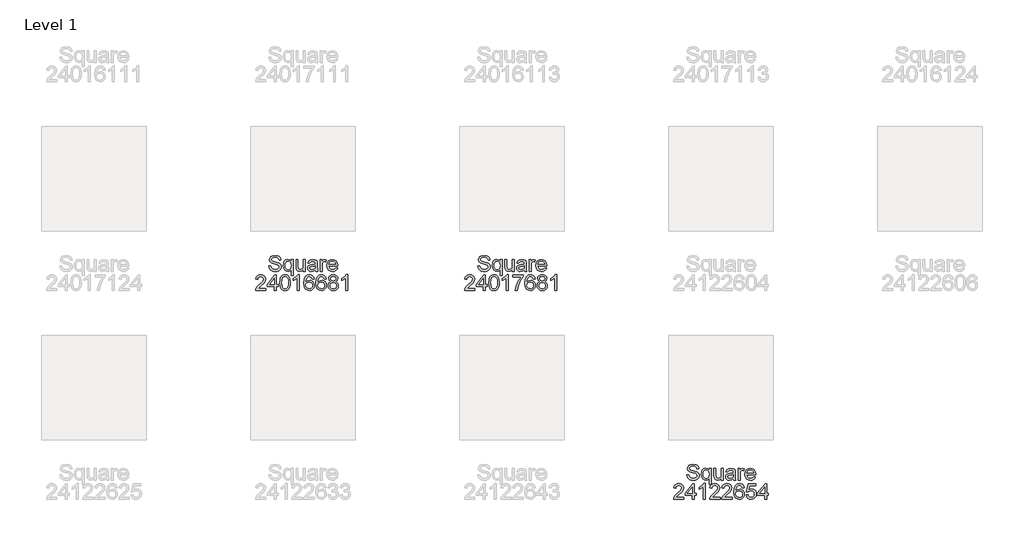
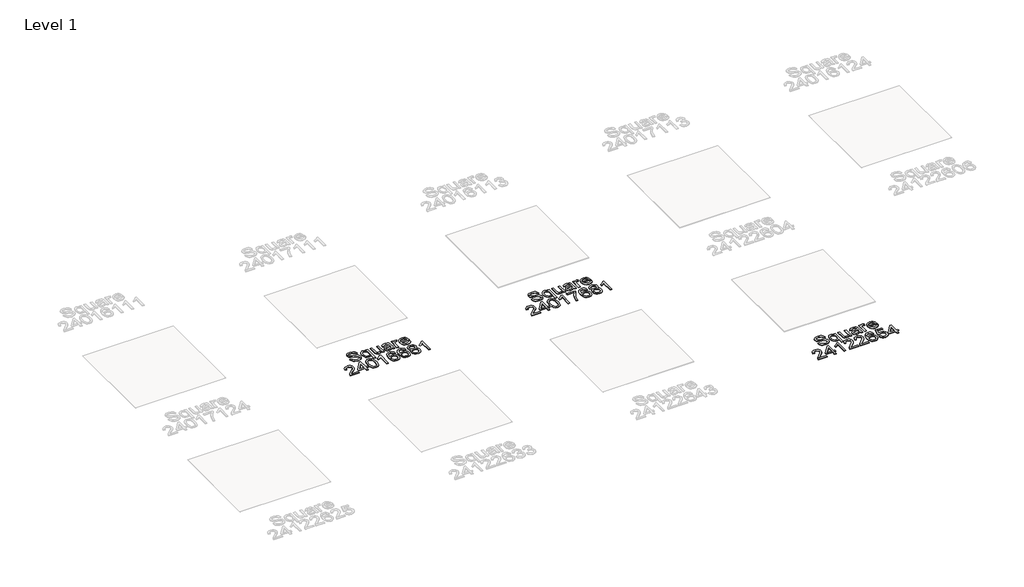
# One storey, part 3 of 6: 3 proxies.
"""IFC4 building model written with IfcOpenShell, lengths in millimetres."""

from ifc_helpers import new_model, si_unit, origin, origin_with_axes, place, context, project, spatial, polyline, outline, extrude, element, save

model = new_model("IFC4")

# Units and contexts
model_context = context("Model", 3, world=origin())
ifc_project = project(units=[si_unit("LENGTHUNIT", "METRE", prefix="MILLI")], contexts=[model_context])

# Site, building, storey
site = spatial("IfcSite", under=ifc_project)
building = spatial("IfcBuilding", under=site)
storey = spatial("IfcBuildingStorey", under=building, Name="Level 1", Elevation=0.0)

# Proxies
placement = place(None, origin())
element("IfcBuildingElementProxy", 1, Name="150mm Arial", ObjectType="150mm Arial", at=placement, inside=storey, context=model_context, shape_type="SweptSolid", body=[
    extrude(outline(polyline([(-2760.0314438, -1311.1477573), (-2741.1958857, -1311.1477573), (-2735.1258328, -1330.0017096), (-2720.3001884, -1341.9210862), (-2697.7122339, -1346.4644288), (-2678.0305471, -1343.0247322), (-2665.3202242, -1333.5701649), (-2661.1447635, -1320.9334184), (-2664.2717605, -1309.1795886), (-2677.0740539, -1300.6263322), (-2704.4996567, -1293.4342392), (-2734.0221868, -1284.1452189), (-2750.0434477, -1270.1289148), (-2755.3225543, -1251.4037213), (-2753.6900779, -1240.37186), (-2748.7926489, -1230.0849597), (-2740.7590258, -1221.3661564), (-2729.7179674, -1215.0385861), (-2701.795724, -1209.9066322), (-2671.9972824, -1215.2777094), (-2660.5745464, -1221.9087823), (-2652.1316547, -1231.059847), (-2646.7881687, -1242.1606862), (-2644.6636501, -1254.6410828), (-2663.4992083, -1254.6410828), (-2666.9572991, -1243.4022879), (-2674.1677862, -1235.2904899), (-2685.4341723, -1230.3792653), (-2701.05996, -1228.7421904), (-2717.0536297, -1230.3608712), (-2728.0257103, -1235.2169135), (-2734.3716747, -1242.3630213), (-2736.4869961, -1250.8518983), (-2734.987877, -1258.0899766), (-2730.4905196, -1263.9117091), (-2699.7355848, -1274.4331342), (-2666.4054761, -1283.8877015), (-2655.6679203, -1290.7211095), (-2648.1769232, -1299.1548043), (-2643.7761348, -1309.0968152), (-2642.3092054, -1320.4551718), (-2643.996864, -1332.0664473), (-2649.05984, -1342.987944), (-2657.2911996, -1352.387329), (-2668.4840093, -1359.4322692), (-2681.9438918, -1363.8330575), (-2696.9764699, -1365.299987), (-2715.4303504, -1363.7180944), (-2730.6192783, -1358.9724167), (-2742.7179974, -1351.0445597), (-2751.9012517, -1339.9161293), (-2757.7965607, -1326.3596778), (-2760.0314438, -1311.1477573)])), origin_with_axes(), (0.0, 0.0, 1.0), 5.0),
    extrude(outline(polyline([(-2548.1314146, -1405.3255481), (-2548.1314146, -1347.8623804), (-2560.0875795, -1360.3335801), (-2576.42154, -1365.299987), (-2594.3281962, -1361.3774452), (-2609.5677078, -1349.6098199), (-2619.9971624, -1331.0087865), (-2623.4736472, -1306.5860206), (-2617.9554173, -1276.7507908), (-2611.1955856, -1265.1441138), (-2601.9525505, -1256.7380102), (-2590.9620759, -1251.6336475), (-2578.9599258, -1249.9321933), (-2561.4487428, -1255.2112999), (-2548.1314146, -1271.0486198), (-2548.1314146, -1252.2866381), (-2529.2958565, -1252.2866381), (-2529.2958565, -1405.3255481), (-2548.1314146, -1405.3255481)]), holes=[polyline([(-2604.6380891, -1307.6160902), (-2602.5181691, -1324.6122383), (-2596.1584091, -1336.7523442), (-2586.837199, -1344.0364077), (-2575.8329289, -1346.4644288), (-2565.2885112, -1344.1559693), (-2556.316789, -1337.2305908), (-2550.1777582, -1325.5871256), (-2548.1314146, -1309.1244063), (-2550.2881228, -1291.5258514), (-2556.7582474, -1278.9029004), (-2566.1346398, -1271.3015387), (-2577.0101512, -1268.7677515), (-2587.6833276, -1271.1267948), (-2596.5998675, -1278.2039246), (-2602.6285337, -1290.2750526), (-2604.6380891, -1307.6160902)])]), origin_with_axes(), (0.0, 0.0, 1.0), 5.0),
    extrude(outline(polyline([(-2430.4091762, -1362.9455422), (-2430.4091762, -1343.9260431), (-2445.1612442, -1359.956501), (-2464.4014725, -1365.299987), (-2482.1149906, -1361.5475906), (-2494.3286728, -1352.1298116), (-2499.9388732, -1338.2606604), (-2501.0425192, -1320.7494774), (-2501.0425192, -1252.2866381), (-2482.2069611, -1252.2866381), (-2482.2069611, -1311.8835213), (-2481.0665269, -1331.0869614), (-2473.6169165, -1342.3625446), (-2459.5822184, -1346.4644288), (-2443.8552631, -1342.2705741), (-2433.4625967, -1330.8478382), (-2430.4091762, -1309.8601703), (-2430.4091762, -1252.2866381), (-2411.573618, -1252.2866381), (-2411.573618, -1362.9455422), (-2430.4091762, -1362.9455422)])), origin_with_axes(), (0.0, 0.0, 1.0), 5.0),
    extrude(outline(polyline([(-2315.0413825, -1348.8188736), (-2333.3067235, -1361.5843788), (-2353.485051, -1365.299987), (-2369.2258018, -1363.0651039), (-2380.8370773, -1356.3604545), (-2387.9969806, -1346.1793203), (-2390.3836151, -1333.5149826), (-2386.7783715, -1318.6157618), (-2377.3054102, -1307.8000312), (-2364.1168406, -1301.6196136), (-2347.8196682, -1298.7869223), (-2315.1517471, -1292.3121992), (-2315.0413825, -1288.1183444), (-2316.3381665, -1279.7122408), (-2320.2285186, -1274.212405), (-2328.9289278, -1270.1289148), (-2341.0506395, -1268.7677515), (-2360.1069269, -1272.3913891), (-2369.1936122, -1285.2488648), (-2388.0291703, -1282.8944201), (-2379.8805841, -1264.5003203), (-2363.4730471, -1253.7213779), (-2338.6226184, -1249.9321933), (-2315.7955406, -1253.2799195), (-2302.9012766, -1261.6860231), (-2297.1255293, -1274.4699224), (-2296.2058243, -1290.9510358), (-2296.2058243, -1314.3851189), (-2295.2493311, -1347.1082223), (-2291.4969348, -1362.9455422), (-2310.3324929, -1362.9455422), (-2315.0413825, -1348.8188736)]), holes=[polyline([(-2315.0413825, -1311.1477573), (-2345.4284353, -1316.9235046), (-2361.6336372, -1319.9769252), (-2368.972883, -1324.9433321), (-2371.5480569, -1332.1906074), (-2365.9378565, -1342.3809387), (-2349.4751372, -1346.4644288), (-2330.4188499, -1341.9578744), (-2318.1315912, -1331.0501732), (-2315.1517471, -1316.4820462), (-2315.0413825, -1311.1477573)])]), origin_with_axes(), (0.0, 0.0, 1.0), 5.0),
    extrude(outline(polyline([(-2270.3069319, -1362.9455422), (-2270.3069319, -1252.2866381), (-2253.8258185, -1252.2866381), (-2253.8258185, -1268.6573869), (-2242.127171, -1253.5742251), (-2230.3549472, -1249.9321933), (-2211.4458126, -1255.7447288), (-2217.7365947, -1272.6305124), (-2230.9803466, -1268.7677515), (-2241.6305303, -1272.4833596), (-2248.4179531, -1282.7840555), (-2251.4713737, -1304.7833988), (-2251.4713737, -1362.9455422), (-2270.3069319, -1362.9455422)])), origin_with_axes(), (0.0, 0.0, 1.0), 5.0),
    extrude(outline(polyline([(-2122.1976406, -1329.9833155), (-2103.7299644, -1332.3377602), (-2110.38403, -1346.2528967), (-2121.0020241, -1356.6547601), (-2135.3448234, -1363.1386803), (-2153.1733046, -1365.299987), (-2175.2738155, -1361.5705833), (-2192.2791607, -1350.3823721), (-2203.1224825, -1332.4619204), (-2206.7369231, -1308.5357951), (-2203.0856943, -1283.804928), (-2192.1320079, -1265.3096607), (-2175.3565889, -1253.7765602), (-2154.2401624, -1249.9321933), (-2133.7813249, -1253.7673631), (-2117.4335688, -1265.2728725), (-2106.7144071, -1283.7313516), (-2103.1413532, -1308.4254305), (-2103.2517178, -1313.5022021), (-2187.9013649, -1313.5022021), (-2184.6410108, -1327.6012795), (-2177.0672402, -1337.9663548), (-2166.1365464, -1344.3399103), (-2152.8054226, -1346.4644288), (-2134.3377464, -1342.5280915), (-2122.1976406, -1329.9833155)]), holes=[polyline([(-2187.9013649, -1294.6666439), (-2121.9769114, -1294.6666439), (-2124.5244942, -1284.715436), (-2129.5184923, -1277.5969193), (-2140.4997699, -1270.9750434), (-2154.3137388, -1268.7677515), (-2167.0102661, -1270.5289865), (-2177.5086986, -1275.8126917), (-2184.8065577, -1284.0486498), (-2187.9013649, -1294.6666439)])]), origin_with_axes(), (0.0, 0.0, 1.0), 5.0),
    extrude(outline(polyline([(-2789.4620034, -1527.0722108), (-2789.4620034, -1545.907769), (-2888.3486838, -1545.907769), (-2886.3253328, -1532.9215346), (-2874.8842027, -1512.9271481), (-2851.3029668, -1491.0933517), (-2818.7821985, -1459.7130175), (-2812.6845544, -1448.8972869), (-2810.6520064, -1438.3758618), (-2812.5695913, -1428.9442872), (-2818.322346, -1421.1038021), (-2827.1653094, -1415.820097), (-2838.3535206, -1414.0588619), (-2850.1027518, -1415.7787103), (-2859.2308238, -1420.9382552), (-2865.1215343, -1429.1328267), (-2867.1586808, -1439.9577544), (-2885.994239, -1437.6033096), (-2881.4279037, -1419.3839538), (-2871.5548707, -1406.0758226), (-2856.8901746, -1397.9364335), (-2837.9488504, -1395.2233038), (-2818.8695704, -1398.2399361), (-2804.2324656, -1407.2898332), (-2794.9204526, -1420.8094965), (-2791.8164482, -1437.2354276), (-2795.1641744, -1455.0960985), (-2806.2926047, -1473.5637746), (-2833.2767491, -1499.3706966), (-2854.9449986, -1517.4888849), (-2863.4430727, -1527.0722108), (-2789.4620034, -1527.0722108)])), origin_with_axes(), (0.0, 0.0, 1.0), 5.0),
    extrude(outline(polyline([(-2709.4108813, -1545.907769), (-2709.4108813, -1510.5910975), (-2777.6897796, -1510.5910975), (-2777.6897796, -1491.7555393), (-2704.7019918, -1397.5777485), (-2690.5753231, -1397.5777485), (-2690.5753231, -1491.7555393), (-2671.739765, -1491.7555393), (-2671.739765, -1510.5910975), (-2690.5753231, -1510.5910975), (-2690.5753231, -1545.907769), (-2709.4108813, -1545.907769)]), holes=[polyline([(-2709.4108813, -1491.7555393), (-2709.4108813, -1433.5566077), (-2754.5132139, -1491.7555393), (-2709.4108813, -1491.7555393)])]), origin_with_axes(), (0.0, 0.0, 1.0), 5.0),
    extrude(outline(polyline([(-2655.2586516, -1471.779547), (-2653.8744956, -1447.6602837), (-2649.7220276, -1428.4246538), (-2642.8426343, -1413.7783519), (-2633.2777024, -1403.4270723), (-2620.9582541, -1397.2742459), (-2605.8153115, -1395.2233038), (-2583.8159681, -1400.0793461), (-2568.6224417, -1414.077256), (-2559.7932739, -1436.3709049), (-2556.3719713, -1471.779547), (-2557.7423317, -1495.7608545), (-2561.853413, -1514.9504991), (-2568.6914196, -1529.6105966), (-2578.2425559, -1540.003263), (-2590.5895954, -1546.1974761), (-2605.8153115, -1548.2622138), (-2625.3866336, -1544.6753643), (-2640.2490662, -1533.914816), (-2651.5062553, -1508.4297907), (-2655.2586516, -1471.779547)]), holes=[polyline([(-2636.4230935, -1471.7427588), (-2634.2158015, -1501.371055), (-2627.5939256, -1518.5189545), (-2617.7346881, -1526.6997303), (-2605.8153115, -1529.4266556), (-2593.8959348, -1526.6905333), (-2584.0366973, -1518.4821663), (-2577.4148214, -1501.3250697), (-2575.2075295, -1471.7427588), (-2577.341245, -1442.7812487), (-2583.7423917, -1425.499992), (-2593.5832351, -1416.9191444), (-2606.0360407, -1414.0588619), (-2617.8266586, -1416.5788536), (-2627.29962, -1424.1388286), (-2634.1422251, -1442.4961402), (-2636.4230935, -1471.7427588)])]), origin_with_axes(), (0.0, 0.0, 1.0), 5.0),
    extrude(outline(polyline([(-2469.2575148, -1545.907769), (-2488.093073, -1545.907769), (-2488.093073, -1428.4798361), (-2505.9353498, -1441.1901591), (-2525.7641893, -1450.6999086), (-2525.7641893, -1432.8944201), (-2498.1546456, -1415.2728725), (-2481.3976207, -1395.2233038), (-2469.2575148, -1395.2233038), (-2469.2575148, -1545.907769)])), origin_with_axes(), (0.0, 0.0, 1.0), 5.0),
    extrude(outline(polyline([(-2327.9908287, -1435.2488648), (-2346.8263869, -1437.6033096), (-2353.9632976, -1421.8947484), (-2362.5073569, -1416.0178336), (-2372.8356439, -1414.0588619), (-2389.8317921, -1418.6205987), (-2402.6892678, -1435.7455055), (-2406.5934155, -1449.7756051), (-2408.0419509, -1469.3147376), (-2391.4320788, -1454.2867581), (-2370.8490811, -1449.3755335), (-2353.4482628, -1452.7324567), (-2338.8433476, -1462.8032263), (-2328.9381248, -1478.1898907), (-2325.6363839, -1497.4944984), (-2327.1906854, -1510.9819721), (-2331.8535896, -1523.4853614), (-2339.2388207, -1534.0895599), (-2348.9601024, -1541.8794612), (-2360.5759764, -1546.6665256), (-2373.6449843, -1548.2622138), (-2395.0143297, -1544.0315708), (-2412.0334705, -1531.339642), (-2423.1664994, -1508.9356285), (-2426.877509, -1475.5687315), (-2422.7572307, -1438.0539651), (-2410.3963956, -1412.4033929), (-2393.5198091, -1399.5183261), (-2371.6584215, -1395.2233038), (-2355.1313229, -1397.8812512), (-2341.8967681, -1405.8550934), (-2332.6261418, -1418.5194311), (-2327.9908287, -1435.2488648)]), holes=[polyline([(-2408.0419509, -1497.2001928), (-2403.6825492, -1513.5157593), (-2392.0942664, -1525.3615596), (-2375.1165123, -1529.4266556), (-2362.6866994, -1527.3205312), (-2352.9148339, -1521.0021579), (-2346.582665, -1511.0693441), (-2344.4719421, -1498.1198978), (-2346.5550739, -1485.6900849), (-2352.8044693, -1476.212525), (-2362.7418817, -1470.21145), (-2375.8890645, -1468.2110916), (-2388.3004833, -1470.21145), (-2398.6793541, -1476.212525), (-2405.7013017, -1485.4601587), (-2408.0419509, -1497.2001928)])]), origin_with_axes(), (0.0, 0.0, 1.0), 5.0),
    extrude(outline(polyline([(-2212.623035, -1435.2488648), (-2231.4585932, -1437.6033096), (-2238.5955039, -1421.8947484), (-2247.1395632, -1416.0178336), (-2257.4678502, -1414.0588619), (-2274.4639984, -1418.6205987), (-2287.3214741, -1435.7455055), (-2291.2256218, -1449.7756051), (-2292.6741572, -1469.3147376), (-2276.0642851, -1454.2867581), (-2255.4812875, -1449.3755335), (-2238.0804691, -1452.7324567), (-2223.4755539, -1462.8032263), (-2213.5703312, -1478.1898907), (-2210.2685902, -1497.4944984), (-2211.8228917, -1510.9819721), (-2216.485796, -1523.4853614), (-2223.871027, -1534.0895599), (-2233.5923087, -1541.8794612), (-2245.2081827, -1546.6665256), (-2258.2771906, -1548.2622138), (-2279.646536, -1544.0315708), (-2296.6656768, -1531.339642), (-2307.7987057, -1508.9356285), (-2311.5097153, -1475.5687315), (-2307.389437, -1438.0539651), (-2295.0286019, -1412.4033929), (-2278.1520154, -1399.5183261), (-2256.2906278, -1395.2233038), (-2239.7635292, -1397.8812512), (-2226.5289744, -1405.8550934), (-2217.2583482, -1418.5194311), (-2212.623035, -1435.2488648)]), holes=[polyline([(-2292.6741572, -1497.2001928), (-2288.3147555, -1513.5157593), (-2276.7264727, -1525.3615596), (-2259.7487186, -1529.4266556), (-2247.3189057, -1527.3205312), (-2237.5470402, -1521.0021579), (-2231.2148713, -1511.0693441), (-2229.1041484, -1498.1198978), (-2231.1872802, -1485.6900849), (-2237.4366756, -1476.212525), (-2247.374088, -1470.21145), (-2260.5212708, -1468.2110916), (-2272.9326896, -1470.21145), (-2283.3115604, -1476.212525), (-2290.333508, -1485.4601587), (-2292.6741572, -1497.2001928)])]), origin_with_axes(), (0.0, 0.0, 1.0), 5.0),
    extrude(outline(polyline([(-2166.34348, -1462.9135909), (-2183.5051751, -1451.2149434), (-2189.0785873, -1433.0047847), (-2186.0435609, -1418.2803078), (-2176.9384815, -1406.1126108), (-2162.7842217, -1397.9456305), (-2144.6016541, -1395.2233038), (-2126.3087219, -1398.0100099), (-2111.9705211, -1406.3701282), (-2102.6998949, -1418.7309633), (-2099.6096861, -1433.5198195), (-2105.1095219, -1451.2701257), (-2121.7929704, -1462.9135909), (-2110.200089, -1468.8870748), (-2101.7617958, -1477.684053), (-2096.6160464, -1488.8814612), (-2094.9007966, -1502.0562352), (-2098.303705, -1520.0640588), (-2108.5124304, -1534.9448855), (-2124.2761739, -1544.9328817), (-2144.3441367, -1548.2622138), (-2164.4120995, -1544.9190861), (-2180.175843, -1534.8897032), (-2190.3845684, -1519.8663223), (-2193.7874769, -1501.5412004), (-2192.0032492, -1487.8559902), (-2186.6505662, -1476.5988011), (-2178.0053393, -1468.1559093), (-2166.34348, -1462.9135909)]), holes=[polyline([(-2170.2430292, -1433.5566077), (-2168.5737646, -1441.7787703), (-2163.565971, -1448.3454639), (-2155.366801, -1452.6496832), (-2144.1234075, -1454.084423), (-2133.14213, -1452.6588803), (-2125.0671202, -1448.3822521), (-2120.1007132, -1442.0362877), (-2118.4452442, -1434.4027363), (-2120.1558955, -1426.4794778), (-2125.2878494, -1419.9265797), (-2133.4732238, -1415.5257914), (-2144.3441367, -1414.0588619), (-2155.2840275, -1415.4936017), (-2163.4556064, -1419.7978211), (-2168.5461735, -1426.1069973), (-2170.2430292, -1433.5566077)]), polyline([(-2174.9519187, -1500.8790128), (-2171.8065276, -1515.0608637), (-2160.6780973, -1525.6742593), (-2144.1969839, -1529.4266556), (-2131.3762964, -1527.4538884), (-2121.7561822, -1521.5355868), (-2115.7413116, -1512.5730617), (-2113.7363547, -1501.467624), (-2115.8056909, -1490.1736467), (-2122.0136996, -1481.013385), (-2131.854543, -1474.9433321), (-2144.8223833, -1472.9199812), (-2157.4637284, -1474.915741), (-2166.9872735, -1480.9030204), (-2172.9607574, -1489.8885382), (-2174.9519187, -1500.8790128)])]), origin_with_axes(), (0.0, 0.0, 1.0), 5.0),
    extrude(outline(polyline([(-2007.7863401, -1545.907769), (-2026.6218983, -1545.907769), (-2026.6218983, -1428.4798361), (-2044.464175, -1441.1901591), (-2064.2930146, -1450.6999086), (-2064.2930146, -1432.8944201), (-2036.6834708, -1415.2728725), (-2019.9264459, -1395.2233038), (-2007.7863401, -1395.2233038), (-2007.7863401, -1545.907769)])), origin_with_axes(), (0.0, 0.0, 1.0), 5.0),
])
element("IfcBuildingElementProxy", 2, Name="150mm Arial", ObjectType="150mm Arial", at=placement, inside=storey, context=model_context, shape_type="SweptSolid", body=[
    extrude(outline(polyline([(-760.0314438, -1311.1477573), (-741.1958857, -1311.1477573), (-735.1258328, -1330.0017096), (-720.3001884, -1341.9210862), (-697.7122339, -1346.4644288), (-678.0305471, -1343.0247322), (-665.3202242, -1333.5701649), (-661.1447635, -1320.9334184), (-664.2717605, -1309.1795886), (-677.0740539, -1300.6263322), (-704.4996567, -1293.4342392), (-734.0221868, -1284.1452189), (-750.0434477, -1270.1289148), (-755.3225543, -1251.4037213), (-753.6900779, -1240.37186), (-748.7926489, -1230.0849597), (-740.7590258, -1221.3661564), (-729.7179674, -1215.0385861), (-701.795724, -1209.9066322), (-671.9972824, -1215.2777094), (-660.5745464, -1221.9087823), (-652.1316547, -1231.059847), (-646.7881687, -1242.1606862), (-644.6636501, -1254.6410828), (-663.4992083, -1254.6410828), (-666.9572991, -1243.4022879), (-674.1677862, -1235.2904899), (-685.4341723, -1230.3792653), (-701.05996, -1228.7421904), (-717.0536297, -1230.3608712), (-728.0257103, -1235.2169135), (-734.3716747, -1242.3630213), (-736.4869961, -1250.8518983), (-734.987877, -1258.0899766), (-730.4905196, -1263.9117091), (-699.7355848, -1274.4331342), (-666.4054761, -1283.8877015), (-655.6679203, -1290.7211095), (-648.1769232, -1299.1548043), (-643.7761348, -1309.0968152), (-642.3092054, -1320.4551718), (-643.996864, -1332.0664473), (-649.05984, -1342.987944), (-657.2911996, -1352.387329), (-668.4840093, -1359.4322692), (-681.9438918, -1363.8330575), (-696.9764699, -1365.299987), (-715.4303504, -1363.7180944), (-730.6192783, -1358.9724167), (-742.7179974, -1351.0445597), (-751.9012517, -1339.9161293), (-757.7965607, -1326.3596778), (-760.0314438, -1311.1477573)])), origin_with_axes(), (0.0, 0.0, 1.0), 5.0),
    extrude(outline(polyline([(-548.1314146, -1405.3255481), (-548.1314146, -1347.8623804), (-560.0875795, -1360.3335801), (-576.42154, -1365.299987), (-594.3281962, -1361.3774452), (-609.5677078, -1349.6098199), (-619.9971624, -1331.0087865), (-623.4736472, -1306.5860206), (-617.9554173, -1276.7507908), (-611.1955856, -1265.1441138), (-601.9525505, -1256.7380102), (-590.9620759, -1251.6336475), (-578.9599258, -1249.9321933), (-561.4487428, -1255.2112999), (-548.1314146, -1271.0486198), (-548.1314146, -1252.2866381), (-529.2958565, -1252.2866381), (-529.2958565, -1405.3255481), (-548.1314146, -1405.3255481)]), holes=[polyline([(-604.6380891, -1307.6160902), (-602.5181691, -1324.6122383), (-596.1584091, -1336.7523442), (-586.837199, -1344.0364077), (-575.8329289, -1346.4644288), (-565.2885112, -1344.1559693), (-556.316789, -1337.2305908), (-550.1777582, -1325.5871256), (-548.1314146, -1309.1244063), (-550.2881228, -1291.5258514), (-556.7582474, -1278.9029004), (-566.1346398, -1271.3015387), (-577.0101512, -1268.7677515), (-587.6833276, -1271.1267948), (-596.5998675, -1278.2039246), (-602.6285337, -1290.2750526), (-604.6380891, -1307.6160902)])]), origin_with_axes(), (0.0, 0.0, 1.0), 5.0),
    extrude(outline(polyline([(-430.4091762, -1362.9455422), (-430.4091762, -1343.9260431), (-445.1612442, -1359.956501), (-464.4014725, -1365.299987), (-482.1149906, -1361.5475906), (-494.3286728, -1352.1298116), (-499.9388732, -1338.2606604), (-501.0425192, -1320.7494774), (-501.0425192, -1252.2866381), (-482.2069611, -1252.2866381), (-482.2069611, -1311.8835213), (-481.0665269, -1331.0869614), (-473.6169165, -1342.3625446), (-459.5822184, -1346.4644288), (-443.8552631, -1342.2705741), (-433.4625967, -1330.8478382), (-430.4091762, -1309.8601703), (-430.4091762, -1252.2866381), (-411.573618, -1252.2866381), (-411.573618, -1362.9455422), (-430.4091762, -1362.9455422)])), origin_with_axes(), (0.0, 0.0, 1.0), 5.0),
    extrude(outline(polyline([(-315.0413825, -1348.8188736), (-333.3067235, -1361.5843788), (-353.485051, -1365.299987), (-369.2258018, -1363.0651039), (-380.8370773, -1356.3604545), (-387.9969806, -1346.1793203), (-390.3836151, -1333.5149826), (-386.7783715, -1318.6157618), (-377.3054102, -1307.8000312), (-364.1168406, -1301.6196136), (-347.8196682, -1298.7869223), (-315.1517471, -1292.3121992), (-315.0413825, -1288.1183444), (-316.3381665, -1279.7122408), (-320.2285186, -1274.212405), (-328.9289278, -1270.1289148), (-341.0506395, -1268.7677515), (-360.1069269, -1272.3913891), (-369.1936122, -1285.2488648), (-388.0291703, -1282.8944201), (-379.8805841, -1264.5003203), (-363.4730471, -1253.7213779), (-338.6226184, -1249.9321933), (-315.7955406, -1253.2799195), (-302.9012766, -1261.6860231), (-297.1255293, -1274.4699224), (-296.2058243, -1290.9510358), (-296.2058243, -1314.3851189), (-295.2493311, -1347.1082223), (-291.4969348, -1362.9455422), (-310.3324929, -1362.9455422), (-315.0413825, -1348.8188736)]), holes=[polyline([(-315.0413825, -1311.1477573), (-345.4284353, -1316.9235046), (-361.6336372, -1319.9769252), (-368.972883, -1324.9433321), (-371.5480569, -1332.1906074), (-365.9378565, -1342.3809387), (-349.4751372, -1346.4644288), (-330.4188499, -1341.9578744), (-318.1315912, -1331.0501732), (-315.1517471, -1316.4820462), (-315.0413825, -1311.1477573)])]), origin_with_axes(), (0.0, 0.0, 1.0), 5.0),
    extrude(outline(polyline([(-270.3069319, -1362.9455422), (-270.3069319, -1252.2866381), (-253.8258185, -1252.2866381), (-253.8258185, -1268.6573869), (-242.127171, -1253.5742251), (-230.3549472, -1249.9321933), (-211.4458126, -1255.7447288), (-217.7365947, -1272.6305124), (-230.9803466, -1268.7677515), (-241.6305303, -1272.4833596), (-248.4179531, -1282.7840555), (-251.4713737, -1304.7833988), (-251.4713737, -1362.9455422), (-270.3069319, -1362.9455422)])), origin_with_axes(), (0.0, 0.0, 1.0), 5.0),
    extrude(outline(polyline([(-122.1976406, -1329.9833155), (-103.7299644, -1332.3377602), (-110.38403, -1346.2528967), (-121.0020241, -1356.6547601), (-135.3448234, -1363.1386803), (-153.1733046, -1365.299987), (-175.2738155, -1361.5705833), (-192.2791607, -1350.3823721), (-203.1224825, -1332.4619204), (-206.7369231, -1308.5357951), (-203.0856943, -1283.804928), (-192.1320079, -1265.3096607), (-175.3565889, -1253.7765602), (-154.2401624, -1249.9321933), (-133.7813249, -1253.7673631), (-117.4335688, -1265.2728725), (-106.7144071, -1283.7313516), (-103.1413532, -1308.4254305), (-103.2517178, -1313.5022021), (-187.9013649, -1313.5022021), (-184.6410108, -1327.6012795), (-177.0672402, -1337.9663548), (-166.1365464, -1344.3399103), (-152.8054226, -1346.4644288), (-134.3377464, -1342.5280915), (-122.1976406, -1329.9833155)]), holes=[polyline([(-187.9013649, -1294.6666439), (-121.9769114, -1294.6666439), (-124.5244942, -1284.715436), (-129.5184923, -1277.5969193), (-140.4997699, -1270.9750434), (-154.3137388, -1268.7677515), (-167.0102661, -1270.5289865), (-177.5086986, -1275.8126917), (-184.8065577, -1284.0486498), (-187.9013649, -1294.6666439)])]), origin_with_axes(), (0.0, 0.0, 1.0), 5.0),
    extrude(outline(polyline([(-789.4620034, -1527.0722108), (-789.4620034, -1545.907769), (-888.3486838, -1545.907769), (-886.3253328, -1532.9215346), (-874.8842027, -1512.9271481), (-851.3029668, -1491.0933517), (-818.7821985, -1459.7130175), (-812.6845544, -1448.8972869), (-810.6520064, -1438.3758618), (-812.5695913, -1428.9442872), (-818.322346, -1421.1038021), (-827.1653094, -1415.820097), (-838.3535206, -1414.0588619), (-850.1027518, -1415.7787103), (-859.2308238, -1420.9382552), (-865.1215343, -1429.1328267), (-867.1586808, -1439.9577544), (-885.994239, -1437.6033096), (-881.4279037, -1419.3839538), (-871.5548707, -1406.0758226), (-856.8901746, -1397.9364335), (-837.9488504, -1395.2233038), (-818.8695704, -1398.2399361), (-804.2324656, -1407.2898332), (-794.9204526, -1420.8094965), (-791.8164482, -1437.2354276), (-795.1641744, -1455.0960985), (-806.2926047, -1473.5637746), (-833.2767491, -1499.3706966), (-854.9449986, -1517.4888849), (-863.4430727, -1527.0722108), (-789.4620034, -1527.0722108)])), origin_with_axes(), (0.0, 0.0, 1.0), 5.0),
    extrude(outline(polyline([(-709.4108813, -1545.907769), (-709.4108813, -1510.5910975), (-777.6897796, -1510.5910975), (-777.6897796, -1491.7555393), (-704.7019918, -1397.5777485), (-690.5753231, -1397.5777485), (-690.5753231, -1491.7555393), (-671.739765, -1491.7555393), (-671.739765, -1510.5910975), (-690.5753231, -1510.5910975), (-690.5753231, -1545.907769), (-709.4108813, -1545.907769)]), holes=[polyline([(-709.4108813, -1491.7555393), (-709.4108813, -1433.5566077), (-754.5132139, -1491.7555393), (-709.4108813, -1491.7555393)])]), origin_with_axes(), (0.0, 0.0, 1.0), 5.0),
    extrude(outline(polyline([(-655.2586516, -1471.779547), (-653.8744956, -1447.6602837), (-649.7220276, -1428.4246538), (-642.8426343, -1413.7783519), (-633.2777024, -1403.4270723), (-620.9582541, -1397.2742459), (-605.8153115, -1395.2233038), (-583.8159681, -1400.0793461), (-568.6224417, -1414.077256), (-559.7932739, -1436.3709049), (-556.3719713, -1471.779547), (-557.7423317, -1495.7608545), (-561.853413, -1514.9504991), (-568.6914196, -1529.6105966), (-578.2425559, -1540.003263), (-590.5895954, -1546.1974761), (-605.8153115, -1548.2622138), (-625.3866336, -1544.6753643), (-640.2490662, -1533.914816), (-651.5062553, -1508.4297907), (-655.2586516, -1471.779547)]), holes=[polyline([(-636.4230935, -1471.7427588), (-634.2158015, -1501.371055), (-627.5939256, -1518.5189545), (-617.7346881, -1526.6997303), (-605.8153115, -1529.4266556), (-593.8959348, -1526.6905333), (-584.0366973, -1518.4821663), (-577.4148214, -1501.3250697), (-575.2075295, -1471.7427588), (-577.341245, -1442.7812487), (-583.7423917, -1425.499992), (-593.5832351, -1416.9191444), (-606.0360407, -1414.0588619), (-617.8266586, -1416.5788536), (-627.29962, -1424.1388286), (-634.1422251, -1442.4961402), (-636.4230935, -1471.7427588)])]), origin_with_axes(), (0.0, 0.0, 1.0), 5.0),
    extrude(outline(polyline([(-469.2575148, -1545.907769), (-488.093073, -1545.907769), (-488.093073, -1428.4798361), (-505.9353498, -1441.1901591), (-525.7641893, -1450.6999086), (-525.7641893, -1432.8944201), (-498.1546456, -1415.2728725), (-481.3976207, -1395.2233038), (-469.2575148, -1395.2233038), (-469.2575148, -1545.907769)])), origin_with_axes(), (0.0, 0.0, 1.0), 5.0),
    extrude(outline(polyline([(-424.5230642, -1416.4133067), (-424.5230642, -1397.5777485), (-325.6363839, -1397.5777485), (-325.6363839, -1412.8080631), (-353.6873861, -1453.3302649), (-365.9976373, -1478.7922975), (-375.1533005, -1504.9625029), (-382.1430584, -1545.907769), (-400.9786165, -1545.907769), (-393.4922179, -1503.4173986), (-384.7780132, -1478.9578444), (-372.9460085, -1455.3904041), (-344.4719421, -1416.4133067), (-424.5230642, -1416.4133067)])), origin_with_axes(), (0.0, 0.0, 1.0), 5.0),
    extrude(outline(polyline([(-212.623035, -1435.2488648), (-231.4585932, -1437.6033096), (-238.5955039, -1421.8947484), (-247.1395632, -1416.0178336), (-257.4678502, -1414.0588619), (-274.4639984, -1418.6205987), (-287.3214741, -1435.7455055), (-291.2256218, -1449.7756051), (-292.6741572, -1469.3147376), (-276.0642851, -1454.2867581), (-255.4812875, -1449.3755335), (-238.0804691, -1452.7324567), (-223.4755539, -1462.8032263), (-213.5703312, -1478.1898907), (-210.2685902, -1497.4944984), (-211.8228917, -1510.9819721), (-216.485796, -1523.4853614), (-223.871027, -1534.0895599), (-233.5923087, -1541.8794612), (-245.2081827, -1546.6665256), (-258.2771906, -1548.2622138), (-279.646536, -1544.0315708), (-296.6656768, -1531.339642), (-307.7987057, -1508.9356285), (-311.5097153, -1475.5687315), (-307.389437, -1438.0539651), (-295.0286019, -1412.4033929), (-278.1520154, -1399.5183261), (-256.2906278, -1395.2233038), (-239.7635292, -1397.8812512), (-226.5289744, -1405.8550934), (-217.2583482, -1418.5194311), (-212.623035, -1435.2488648)]), holes=[polyline([(-292.6741572, -1497.2001928), (-288.3147555, -1513.5157593), (-276.7264727, -1525.3615596), (-259.7487186, -1529.4266556), (-247.3189057, -1527.3205312), (-237.5470402, -1521.0021579), (-231.2148713, -1511.0693441), (-229.1041484, -1498.1198978), (-231.1872802, -1485.6900849), (-237.4366756, -1476.212525), (-247.374088, -1470.21145), (-260.5212708, -1468.2110916), (-272.9326896, -1470.21145), (-283.3115604, -1476.212525), (-290.333508, -1485.4601587), (-292.6741572, -1497.2001928)])]), origin_with_axes(), (0.0, 0.0, 1.0), 5.0),
    extrude(outline(polyline([(-166.34348, -1462.9135909), (-183.5051751, -1451.2149434), (-189.0785873, -1433.0047847), (-186.0435609, -1418.2803078), (-176.9384815, -1406.1126108), (-162.7842217, -1397.9456305), (-144.6016541, -1395.2233038), (-126.3087219, -1398.0100099), (-111.9705211, -1406.3701282), (-102.6998949, -1418.7309633), (-99.6096861, -1433.5198195), (-105.1095219, -1451.2701257), (-121.7929704, -1462.9135909), (-110.200089, -1468.8870748), (-101.7617958, -1477.684053), (-96.6160464, -1488.8814612), (-94.9007966, -1502.0562352), (-98.303705, -1520.0640588), (-108.5124304, -1534.9448855), (-124.2761739, -1544.9328817), (-144.3441367, -1548.2622138), (-164.4120995, -1544.9190861), (-180.175843, -1534.8897032), (-190.3845684, -1519.8663223), (-193.7874769, -1501.5412004), (-192.0032492, -1487.8559902), (-186.6505662, -1476.5988011), (-178.0053393, -1468.1559093), (-166.34348, -1462.9135909)]), holes=[polyline([(-170.2430292, -1433.5566077), (-168.5737646, -1441.7787703), (-163.565971, -1448.3454639), (-155.366801, -1452.6496832), (-144.1234075, -1454.084423), (-133.14213, -1452.6588803), (-125.0671202, -1448.3822521), (-120.1007132, -1442.0362877), (-118.4452442, -1434.4027363), (-120.1558955, -1426.4794778), (-125.2878494, -1419.9265797), (-133.4732238, -1415.5257914), (-144.3441367, -1414.0588619), (-155.2840275, -1415.4936017), (-163.4556064, -1419.7978211), (-168.5461735, -1426.1069973), (-170.2430292, -1433.5566077)]), polyline([(-174.9519187, -1500.8790128), (-171.8065276, -1515.0608637), (-160.6780973, -1525.6742593), (-144.1969839, -1529.4266556), (-131.3762964, -1527.4538884), (-121.7561822, -1521.5355868), (-115.7413116, -1512.5730617), (-113.7363547, -1501.467624), (-115.8056909, -1490.1736467), (-122.0136996, -1481.013385), (-131.854543, -1474.9433321), (-144.8223833, -1472.9199812), (-157.4637284, -1474.915741), (-166.9872735, -1480.9030204), (-172.9607574, -1489.8885382), (-174.9519187, -1500.8790128)])]), origin_with_axes(), (0.0, 0.0, 1.0), 5.0),
    extrude(outline(polyline([(-7.7863401, -1545.907769), (-26.6218983, -1545.907769), (-26.6218983, -1428.4798361), (-44.464175, -1441.1901591), (-64.2930146, -1450.6999086), (-64.2930146, -1432.8944201), (-36.6834708, -1415.2728725), (-19.9264459, -1395.2233038), (-7.7863401, -1395.2233038), (-7.7863401, -1545.907769)])), origin_with_axes(), (0.0, 0.0, 1.0), 5.0),
])
element("IfcBuildingElementProxy", 3, Name="150mm Arial", ObjectType="150mm Arial", at=placement, inside=storey, context=model_context, shape_type="SweptSolid", body=[
    extrude(outline(polyline([(1239.9685562, -3311.1477573), (1258.8041143, -3311.1477573), (1264.8741672, -3330.0017096), (1279.6998116, -3341.9210862), (1302.2877661, -3346.4644288), (1321.9694529, -3343.0247322), (1334.6797758, -3333.5701649), (1338.8552365, -3320.9334184), (1335.7282395, -3309.1795886), (1322.9259461, -3300.6263322), (1295.5003433, -3293.4342392), (1265.9778132, -3284.1452189), (1249.9565523, -3270.1289148), (1244.6774457, -3251.4037213), (1246.3099221, -3240.37186), (1251.2073511, -3230.0849597), (1259.2409742, -3221.3661564), (1270.2820326, -3215.0385861), (1298.204276, -3209.9066322), (1328.0027176, -3215.2777094), (1339.4254536, -3221.9087823), (1347.8683453, -3231.059847), (1353.2118313, -3242.1606862), (1355.3363499, -3254.6410828), (1336.5007917, -3254.6410828), (1333.0427009, -3243.4022879), (1325.8322138, -3235.2904899), (1314.5658277, -3230.3792653), (1298.94004, -3228.7421904), (1282.9463703, -3230.3608712), (1271.9742897, -3235.2169135), (1265.6283253, -3242.3630213), (1263.5130039, -3250.8518983), (1265.012123, -3258.0899766), (1269.5094804, -3263.9117091), (1300.2644152, -3274.4331342), (1333.5945239, -3283.8877015), (1344.3320797, -3290.7211095), (1351.8230768, -3299.1548043), (1356.2238652, -3309.0968152), (1357.6907946, -3320.4551718), (1356.003136, -3332.0664473), (1350.94016, -3342.987944), (1342.7088004, -3352.387329), (1331.5159907, -3359.4322692), (1318.0561082, -3363.8330575), (1303.0235301, -3365.299987), (1284.5696496, -3363.7180944), (1269.3807217, -3358.9724167), (1257.2820026, -3351.0445597), (1248.0987483, -3339.9161293), (1242.2034393, -3326.3596778), (1239.9685562, -3311.1477573)])), origin_with_axes(), (0.0, 0.0, 1.0), 5.0),
    extrude(outline(polyline([(1451.8685854, -3405.3255481), (1451.8685854, -3347.8623804), (1439.9124205, -3360.3335801), (1423.57846, -3365.299987), (1405.6718038, -3361.3774452), (1390.4322922, -3349.6098199), (1380.0028376, -3331.0087865), (1376.5263528, -3306.5860206), (1382.0445827, -3276.7507908), (1388.8044144, -3265.1441138), (1398.0474495, -3256.7380102), (1409.0379241, -3251.6336475), (1421.0400742, -3249.9321933), (1438.5512572, -3255.2112999), (1451.8685854, -3271.0486198), (1451.8685854, -3252.2866381), (1470.7041435, -3252.2866381), (1470.7041435, -3405.3255481), (1451.8685854, -3405.3255481)]), holes=[polyline([(1395.3619109, -3307.6160902), (1397.4818309, -3324.6122383), (1403.8415909, -3336.7523442), (1413.162801, -3344.0364077), (1424.1670711, -3346.4644288), (1434.7114888, -3344.1559693), (1443.683211, -3337.2305908), (1449.8222418, -3325.5871256), (1451.8685854, -3309.1244063), (1449.7118772, -3291.5258514), (1443.2417526, -3278.9029004), (1433.8653602, -3271.3015387), (1422.9898488, -3268.7677515), (1412.3166724, -3271.1267948), (1403.4001325, -3278.2039246), (1397.3714663, -3290.2750526), (1395.3619109, -3307.6160902)])]), origin_with_axes(), (0.0, 0.0, 1.0), 5.0),
    extrude(outline(polyline([(1569.5908238, -3362.9455422), (1569.5908238, -3343.9260431), (1554.8387558, -3359.956501), (1535.5985275, -3365.299987), (1517.8850094, -3361.5475906), (1505.6713272, -3352.1298116), (1500.0611268, -3338.2606604), (1498.9574808, -3320.7494774), (1498.9574808, -3252.2866381), (1517.7930389, -3252.2866381), (1517.7930389, -3311.8835213), (1518.9334731, -3331.0869614), (1526.3830835, -3342.3625446), (1540.4177816, -3346.4644288), (1556.1447369, -3342.2705741), (1566.5374033, -3330.8478382), (1569.5908238, -3309.8601703), (1569.5908238, -3252.2866381), (1588.426382, -3252.2866381), (1588.426382, -3362.9455422), (1569.5908238, -3362.9455422)])), origin_with_axes(), (0.0, 0.0, 1.0), 5.0),
    extrude(outline(polyline([(1684.9586175, -3348.8188736), (1666.6932765, -3361.5843788), (1646.514949, -3365.299987), (1630.7741982, -3363.0651039), (1619.1629227, -3356.3604545), (1612.0030194, -3346.1793203), (1609.6163849, -3333.5149826), (1613.2216285, -3318.6157618), (1622.6945898, -3307.8000312), (1635.8831594, -3301.6196136), (1652.1803318, -3298.7869223), (1684.8482529, -3292.3121992), (1684.9586175, -3288.1183444), (1683.6618335, -3279.7122408), (1679.7714814, -3274.212405), (1671.0710722, -3270.1289148), (1658.9493605, -3268.7677515), (1639.8930731, -3272.3913891), (1630.8063878, -3285.2488648), (1611.9708297, -3282.8944201), (1620.1194159, -3264.5003203), (1636.5269529, -3253.7213779), (1661.3773816, -3249.9321933), (1684.2044594, -3253.2799195), (1697.0987234, -3261.6860231), (1702.8744707, -3274.4699224), (1703.7941757, -3290.9510358), (1703.7941757, -3314.3851189), (1704.7506689, -3347.1082223), (1708.5030652, -3362.9455422), (1689.6675071, -3362.9455422), (1684.9586175, -3348.8188736)]), holes=[polyline([(1684.9586175, -3311.1477573), (1654.5715647, -3316.9235046), (1638.3663628, -3319.9769252), (1631.027117, -3324.9433321), (1628.4519431, -3332.1906074), (1634.0621435, -3342.3809387), (1650.5248628, -3346.4644288), (1669.5811501, -3341.9578744), (1681.8684088, -3331.0501732), (1684.8482529, -3316.4820462), (1684.9586175, -3311.1477573)])]), origin_with_axes(), (0.0, 0.0, 1.0), 5.0),
    extrude(outline(polyline([(1729.6930681, -3362.9455422), (1729.6930681, -3252.2866381), (1746.1741815, -3252.2866381), (1746.1741815, -3268.6573869), (1757.872829, -3253.5742251), (1769.6450528, -3249.9321933), (1788.5541874, -3255.7447288), (1782.2634053, -3272.6305124), (1769.0196534, -3268.7677515), (1758.3694697, -3272.4833596), (1751.5820469, -3282.7840555), (1748.5286263, -3304.7833988), (1748.5286263, -3362.9455422), (1729.6930681, -3362.9455422)])), origin_with_axes(), (0.0, 0.0, 1.0), 5.0),
    extrude(outline(polyline([(1877.8023594, -3329.9833155), (1896.2700356, -3332.3377602), (1889.61597, -3346.2528967), (1878.9979759, -3356.6547601), (1864.6551766, -3363.1386803), (1846.8266954, -3365.299987), (1824.7261845, -3361.5705833), (1807.7208393, -3350.3823721), (1796.8775175, -3332.4619204), (1793.2630769, -3308.5357951), (1796.9143057, -3283.804928), (1807.8679921, -3265.3096607), (1824.6434111, -3253.7765602), (1845.7598376, -3249.9321933), (1866.2186751, -3253.7673631), (1882.5664312, -3265.2728725), (1893.2855929, -3283.7313516), (1896.8586468, -3308.4254305), (1896.7482822, -3313.5022021), (1812.0986351, -3313.5022021), (1815.3589892, -3327.6012795), (1822.9327598, -3337.9663548), (1833.8634536, -3344.3399103), (1847.1945774, -3346.4644288), (1865.6622536, -3342.5280915), (1877.8023594, -3329.9833155)]), holes=[polyline([(1812.0986351, -3294.6666439), (1878.0230886, -3294.6666439), (1875.4755058, -3284.715436), (1870.4815077, -3277.5969193), (1859.5002301, -3270.9750434), (1845.6862612, -3268.7677515), (1832.9897339, -3270.5289865), (1822.4913014, -3275.8126917), (1815.1934423, -3284.0486498), (1812.0986351, -3294.6666439)])]), origin_with_axes(), (0.0, 0.0, 1.0), 5.0),
    extrude(outline(polyline([(1210.5379966, -3527.0722108), (1210.5379966, -3545.907769), (1111.6513162, -3545.907769), (1113.6746672, -3532.9215346), (1125.1157973, -3512.9271481), (1148.6970332, -3491.0933517), (1181.2178015, -3459.7130175), (1187.3154456, -3448.8972869), (1189.3479936, -3438.3758618), (1187.4304087, -3428.9442872), (1181.677654, -3421.1038021), (1172.8346906, -3415.820097), (1161.6464794, -3414.0588619), (1149.8972482, -3415.7787103), (1140.7691762, -3420.9382552), (1134.8784657, -3429.1328267), (1132.8413192, -3439.9577544), (1114.005761, -3437.6033096), (1118.5720963, -3419.3839538), (1128.4451293, -3406.0758226), (1143.1098254, -3397.9364335), (1162.0511496, -3395.2233038), (1181.1304296, -3398.2399361), (1195.7675344, -3407.2898332), (1205.0795474, -3420.8094965), (1208.1835518, -3437.2354276), (1204.8358256, -3455.0960985), (1193.7073953, -3473.5637746), (1166.7232509, -3499.3706966), (1145.0550014, -3517.4888849), (1136.5569273, -3527.0722108), (1210.5379966, -3527.0722108)])), origin_with_axes(), (0.0, 0.0, 1.0), 5.0),
    extrude(outline(polyline([(1290.5891187, -3545.907769), (1290.5891187, -3510.5910975), (1222.3102204, -3510.5910975), (1222.3102204, -3491.7555393), (1295.2980082, -3397.5777485), (1309.4246769, -3397.5777485), (1309.4246769, -3491.7555393), (1328.260235, -3491.7555393), (1328.260235, -3510.5910975), (1309.4246769, -3510.5910975), (1309.4246769, -3545.907769), (1290.5891187, -3545.907769)]), holes=[polyline([(1290.5891187, -3491.7555393), (1290.5891187, -3433.5566077), (1245.4867861, -3491.7555393), (1290.5891187, -3491.7555393)])]), origin_with_axes(), (0.0, 0.0, 1.0), 5.0),
    extrude(outline(polyline([(1415.3746915, -3545.907769), (1396.5391333, -3545.907769), (1396.5391333, -3428.4798361), (1378.6968565, -3441.1901591), (1358.868017, -3450.6999086), (1358.868017, -3432.8944201), (1386.4775607, -3415.2728725), (1403.2345856, -3395.2233038), (1415.3746915, -3395.2233038), (1415.3746915, -3545.907769)])), origin_with_axes(), (0.0, 0.0, 1.0), 5.0),
    extrude(outline(polyline([(1556.6413776, -3527.0722108), (1556.6413776, -3545.907769), (1457.7546973, -3545.907769), (1459.7780483, -3532.9215346), (1471.2191783, -3512.9271481), (1494.8004142, -3491.0933517), (1527.3211826, -3459.7130175), (1533.4188267, -3448.8972869), (1535.4513747, -3438.3758618), (1533.5337898, -3428.9442872), (1527.7810351, -3421.1038021), (1518.9380716, -3415.820097), (1507.7498605, -3414.0588619), (1496.0006292, -3415.7787103), (1486.8725572, -3420.9382552), (1480.9818468, -3429.1328267), (1478.9447002, -3439.9577544), (1460.1091421, -3437.6033096), (1464.6754773, -3419.3839538), (1474.5485104, -3406.0758226), (1489.2132064, -3397.9364335), (1508.1545306, -3395.2233038), (1527.2338106, -3398.2399361), (1541.8709155, -3407.2898332), (1551.1829285, -3420.8094965), (1554.2869328, -3437.2354276), (1550.9392067, -3455.0960985), (1539.8107763, -3473.5637746), (1512.826632, -3499.3706966), (1491.1583825, -3517.4888849), (1482.6603084, -3527.0722108), (1556.6413776, -3527.0722108)])), origin_with_axes(), (0.0, 0.0, 1.0), 5.0),
    extrude(outline(polyline([(1672.0091713, -3527.0722108), (1672.0091713, -3545.907769), (1573.122491, -3545.907769), (1575.145842, -3532.9215346), (1586.586972, -3512.9271481), (1610.1682079, -3491.0933517), (1642.6889763, -3459.7130175), (1648.7866204, -3448.8972869), (1650.8191684, -3438.3758618), (1648.9015835, -3428.9442872), (1643.1488288, -3421.1038021), (1634.3058653, -3415.820097), (1623.1176541, -3414.0588619), (1611.3684229, -3415.7787103), (1602.2403509, -3420.9382552), (1596.3496405, -3429.1328267), (1594.3124939, -3439.9577544), (1575.4769358, -3437.6033096), (1580.043271, -3419.3839538), (1589.9163041, -3406.0758226), (1604.5810001, -3397.9364335), (1623.5223243, -3395.2233038), (1642.6016043, -3398.2399361), (1657.2387092, -3407.2898332), (1666.5507222, -3420.8094965), (1669.6547265, -3437.2354276), (1666.3070004, -3455.0960985), (1655.17857, -3473.5637746), (1628.1944257, -3499.3706966), (1606.5261762, -3517.4888849), (1598.0281021, -3527.0722108), (1672.0091713, -3527.0722108)])), origin_with_axes(), (0.0, 0.0, 1.0), 5.0),
    extrude(outline(polyline([(1787.376965, -3435.2488648), (1768.5414068, -3437.6033096), (1761.4044961, -3421.8947484), (1752.8604368, -3416.0178336), (1742.5321498, -3414.0588619), (1725.5360016, -3418.6205987), (1712.6785259, -3435.7455055), (1708.7743782, -3449.7756051), (1707.3258428, -3469.3147376), (1723.9357149, -3454.2867581), (1744.5187125, -3449.3755335), (1761.9195309, -3452.7324567), (1776.5244461, -3462.8032263), (1786.4296688, -3478.1898907), (1789.7314098, -3497.4944984), (1788.1771083, -3510.9819721), (1783.514204, -3523.4853614), (1776.128973, -3534.0895599), (1766.4076913, -3541.8794612), (1754.7918173, -3546.6665256), (1741.7228094, -3548.2622138), (1720.353464, -3544.0315708), (1703.3343232, -3531.339642), (1692.2012943, -3508.9356285), (1688.4902847, -3475.5687315), (1692.610563, -3438.0539651), (1704.9713981, -3412.4033929), (1721.8479846, -3399.5183261), (1743.7093722, -3395.2233038), (1760.2364708, -3397.8812512), (1773.4710256, -3405.8550934), (1782.7416518, -3418.5194311), (1787.376965, -3435.2488648)]), holes=[polyline([(1707.3258428, -3497.2001928), (1711.6852445, -3513.5157593), (1723.2735273, -3525.3615596), (1740.2512814, -3529.4266556), (1752.6810943, -3527.3205312), (1762.4529598, -3521.0021579), (1768.7851287, -3511.0693441), (1770.8958516, -3498.1198978), (1768.8127198, -3485.6900849), (1762.5633244, -3476.212525), (1752.625912, -3470.21145), (1739.4787292, -3468.2110916), (1727.0673104, -3470.21145), (1716.6884396, -3476.212525), (1709.666492, -3485.4601587), (1707.3258428, -3497.2001928)])]), origin_with_axes(), (0.0, 0.0, 1.0), 5.0),
    extrude(outline(polyline([(1806.2125231, -3505.8822079), (1825.0480813, -3503.5277632), (1828.506172, -3514.835536), (1834.5394368, -3522.9335384), (1843.1202843, -3527.8033763), (1854.2211235, -3529.4266556), (1867.7223927, -3527.1687799), (1877.8391476, -3520.3951526), (1884.1575209, -3509.8875231), (1886.2636453, -3496.4276406), (1884.2908781, -3483.7541059), (1878.3725765, -3474.0604153), (1868.4627552, -3467.907589), (1854.5154291, -3465.8566468), (1837.9791334, -3469.1307966), (1827.4025261, -3477.6288707), (1808.5669679, -3475.2744259), (1825.0480813, -3397.5777485), (1898.0358691, -3397.5777485), (1898.0358691, -3416.4133067), (1840.2783959, -3416.4133067), (1832.2217802, -3457.9103958), (1845.6770642, -3449.7434155), (1859.7761416, -3447.0210887), (1877.3746966, -3450.396406), (1891.9842103, -3460.5223579), (1901.8204552, -3475.9550076), (1905.0992034, -3495.2504183), (1902.1469504, -3514.0859764), (1893.2901914, -3530.1992078), (1876.3308314, -3543.7464623), (1854.1475471, -3548.2622138), (1835.6476813, -3545.3605445), (1820.9094088, -3536.6555368), (1810.8064496, -3523.1588661), (1806.2125231, -3505.8822079)])), origin_with_axes(), (0.0, 0.0, 1.0), 5.0),
    extrude(outline(polyline([(1982.7958808, -3545.907769), (1982.7958808, -3510.5910975), (1914.5169825, -3510.5910975), (1914.5169825, -3491.7555393), (1987.5047704, -3397.5777485), (2001.631439, -3397.5777485), (2001.631439, -3491.7555393), (2020.4669971, -3491.7555393), (2020.4669971, -3510.5910975), (2001.631439, -3510.5910975), (2001.631439, -3545.907769), (1982.7958808, -3545.907769)]), holes=[polyline([(1982.7958808, -3491.7555393), (1982.7958808, -3433.5566077), (1937.6935482, -3491.7555393), (1982.7958808, -3491.7555393)])]), origin_with_axes(), (0.0, 0.0, 1.0), 5.0),
])

save(model, "model.ifc")
